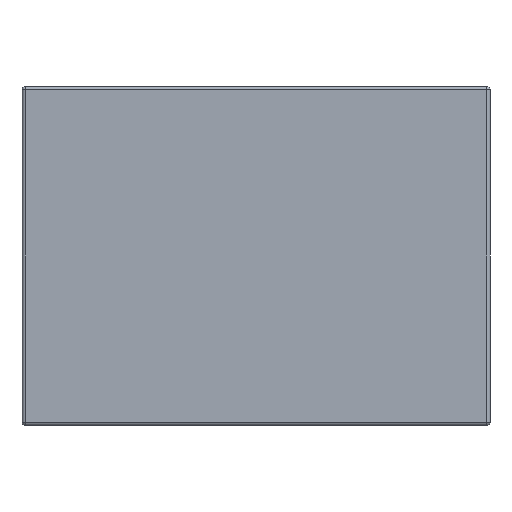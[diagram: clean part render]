
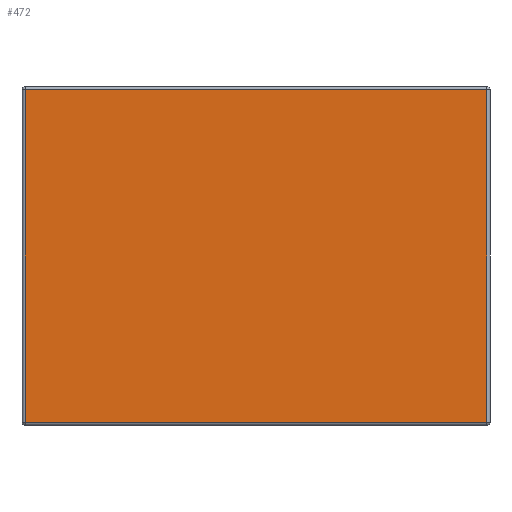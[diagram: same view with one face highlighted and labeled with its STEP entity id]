
A CAD part, front view. The second image highlights one B-rep face of the part: STEP entity #472.
In plain terms, the highlighted planar face has unit normal (0, -1, 0).
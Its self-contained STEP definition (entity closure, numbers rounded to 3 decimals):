
#14 = CARTESIAN_POINT ( 'NONE',  ( 0.5, 0., 0.5 ) ) ;
#29 = VECTOR ( 'NONE', #550, 1000. ) ;
#30 = ORIENTED_EDGE ( 'NONE', *, *, #536, .T. ) ;
#47 = DIRECTION ( 'NONE',  ( 0., 0., 1. ) ) ;
#52 = CARTESIAN_POINT ( 'NONE',  ( 75.5, 0., 0. ) ) ;
#161 = EDGE_LOOP ( 'NONE', ( #30, #230, #176, #391 ) ) ;
#176 = ORIENTED_EDGE ( 'NONE', *, *, #458, .T. ) ;
#183 = LINE ( 'NONE', #286, #29 ) ;
#215 = LINE ( 'NONE', #52, #654 ) ;
#230 = ORIENTED_EDGE ( 'NONE', *, *, #631, .T. ) ;
#249 = CARTESIAN_POINT ( 'NONE',  ( 0., 0., 0.5 ) ) ;
#284 = VERTEX_POINT ( 'NONE', #634 ) ;
#286 = CARTESIAN_POINT ( 'NONE',  ( 0., 0., 54.5 ) ) ;
#296 = VERTEX_POINT ( 'NONE', #418 ) ;
#303 = CARTESIAN_POINT ( 'NONE',  ( 0., 0., 0. ) ) ;
#337 = AXIS2_PLACEMENT_3D ( 'NONE', #303, #403, #47 ) ;
#372 = VECTOR ( 'NONE', #613, 1000. ) ;
#391 = ORIENTED_EDGE ( 'NONE', *, *, #424, .T. ) ;
#403 = DIRECTION ( 'NONE',  ( 0., 1., 0. ) ) ;
#418 = CARTESIAN_POINT ( 'NONE',  ( 75.5, 0., 54.5 ) ) ;
#424 = EDGE_CURVE ( 'NONE', #284, #623, #503, .T. ) ;
#430 = DIRECTION ( 'NONE',  ( 0., 0., -1. ) ) ;
#458 = EDGE_CURVE ( 'NONE', #296, #284, #183, .T. ) ;
#464 = CARTESIAN_POINT ( 'NONE',  ( 75.5, 0., 0.5 ) ) ;
#472 = ADVANCED_FACE ( 'NONE', ( #621 ), #514, .F. ) ;
#487 = CARTESIAN_POINT ( 'NONE',  ( 0.5, 0., 0. ) ) ;
#503 = LINE ( 'NONE', #487, #553 ) ;
#509 = LINE ( 'NONE', #249, #372 ) ;
#514 = PLANE ( 'NONE',  #337 ) ;
#534 = VERTEX_POINT ( 'NONE', #464 ) ;
#536 = EDGE_CURVE ( 'NONE', #623, #534, #509, .T. ) ;
#550 = DIRECTION ( 'NONE',  ( -1., 0., 0. ) ) ;
#553 = VECTOR ( 'NONE', #430, 1000. ) ;
#613 = DIRECTION ( 'NONE',  ( 1., 0., 0. ) ) ;
#621 = FACE_OUTER_BOUND ( 'NONE', #161, .T. ) ;
#623 = VERTEX_POINT ( 'NONE', #14 ) ;
#631 = EDGE_CURVE ( 'NONE', #534, #296, #215, .T. ) ;
#634 = CARTESIAN_POINT ( 'NONE',  ( 0.5, 0., 54.5 ) ) ;
#635 = DIRECTION ( 'NONE',  ( 0., 0., 1. ) ) ;
#654 = VECTOR ( 'NONE', #635, 1000. ) ;
